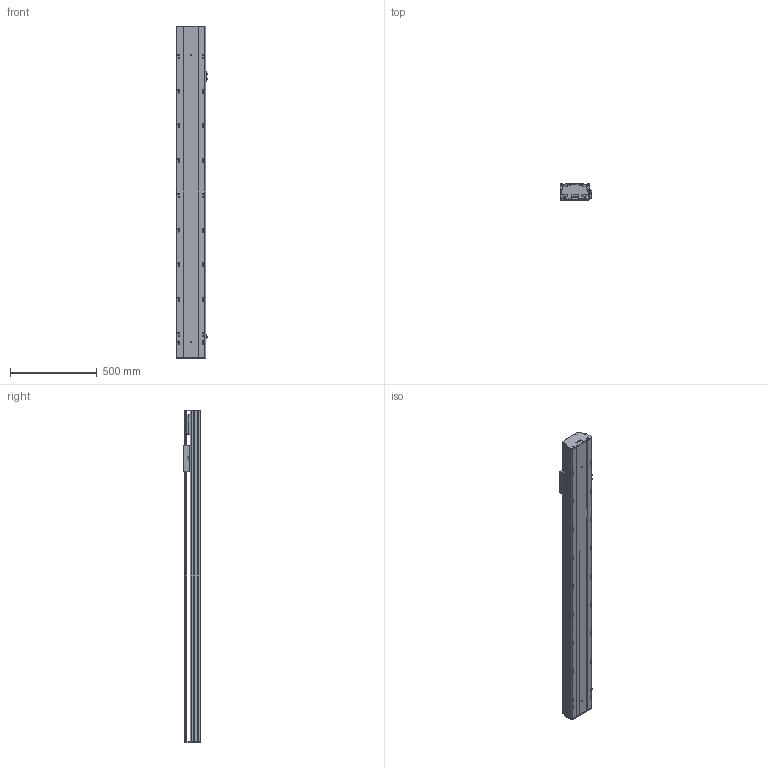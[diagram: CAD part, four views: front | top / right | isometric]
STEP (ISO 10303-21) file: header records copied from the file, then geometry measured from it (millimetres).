
FILE_DESCRIPTION (( 'STEP AP203' ), '1' );
FILE_NAME ('Y170-D10-S1500-M-P400W.STEP', '2020-01-22T14:08:25', ( '微软用户' ), ( '微软中国' ), 'SwSTEP 2.0', 'SolidWorks 2017', '' );
FILE_SCHEMA (( 'CONFIG_CONTROL_DESIGN' ));
Length unit declared in the file: millimetre
Products named in the file (10): Y170耜裔--準---M; san松下电机400不带刹车----; Y170-陔遴奻裔-M; YD-Y100-135-新外置传感挡片(通用）; Y170-D10-S1500-M-P400W; Y100-135俋离換覜ん; 135-盓傅釱-FK15; Y170耜裔--準---; Y170--雄赽釱-梓--; 170--掛极-M
Assembly tree (11 placements, depth 2):
  Y170-D10-S1500-M-P400W
    YD-Y100-135-新外置传感挡片(通用）
    Y100-135俋离換覜ん  x3
    135-盓傅釱-FK15
    Y170耜裔--準---
    Y170--雄赽釱-梓--
    170--掛极-M
    Y170耜裔--準---M
    san松下电机400不带刹车----
    Y170-陔遴奻裔-M
Bounding box: 183.5 x 97 x 1911 mm (x, y, z)
Volume: 7898491.1 mm3; surface area: 2842892.7 mm2
Topology: 11 solids, 11 shells, 833 faces, 2420 edges, 1604 vertices
Faces by surface type: cylinder 447, plane 384, torus 2
Entity records: 27660 total; most frequent: CARTESIAN_POINT 5137, DIRECTION 4542, ORIENTED_EDGE 4504, EDGE_CURVE 2252, AXIS2_PLACEMENT_3D 1625, VERTEX_POINT 1492, LINE 1292, VECTOR 1292
